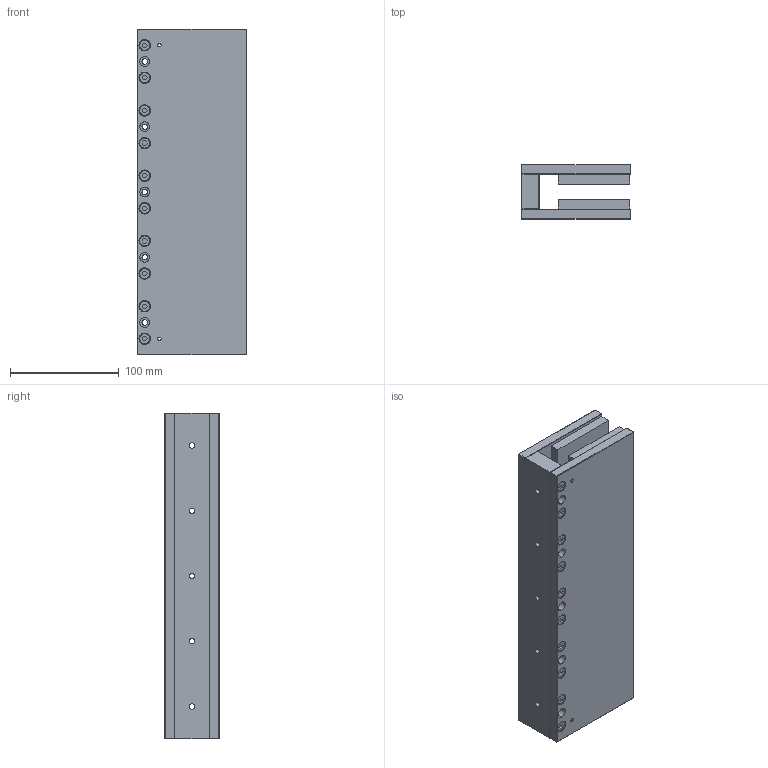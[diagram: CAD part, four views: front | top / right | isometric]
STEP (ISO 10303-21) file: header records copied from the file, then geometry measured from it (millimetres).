
FILE_DESCRIPTION (( 'STEP AP203' ), '1' );
FILE_NAME ('DX65F-TL300.step', '2021-01-04T11:02:26', ( '' ), ( '' ), 'SwSTEP 2.0', 'SolidWorks 2020', '' );
FILE_SCHEMA (( 'CONFIG_CONTROL_DESIGN' ));
Length unit declared in the file: millimetre
Products named in the file (1): DX65F-TL300
Bounding box: 100 x 50 x 299.5 mm (x, y, z)
Volume: 1025419 mm3; surface area: 175935 mm2
Topology: 1 solids, 31 shells, 624 faces, 1330 edges, 830 vertices
Faces by surface type: plane 336, cylinder 248, torus 40
Entity records: 16923 total; most frequent: DIRECTION 3096, CARTESIAN_POINT 2845, ORIENTED_EDGE 2660, EDGE_CURVE 1330, AXIS2_PLACEMENT_3D 1161, VERTEX_POINT 830, LINE 774, VECTOR 774
